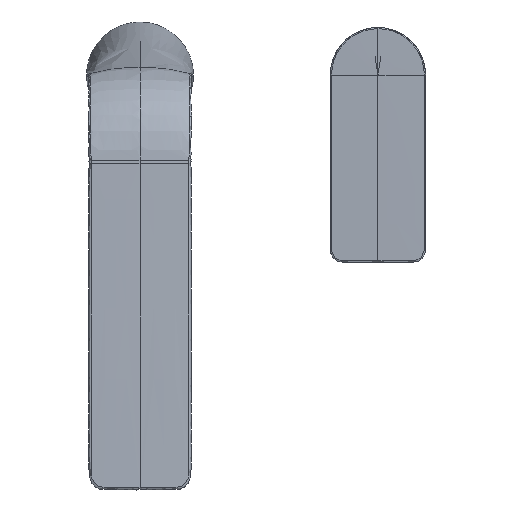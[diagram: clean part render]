
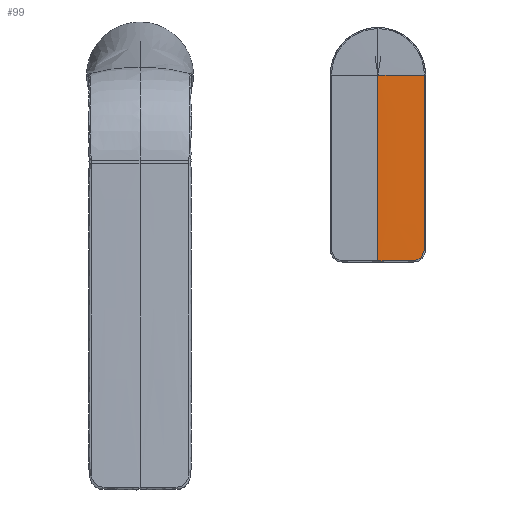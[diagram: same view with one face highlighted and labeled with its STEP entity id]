
A CAD part, top view. The second image highlights one B-rep face of the part: STEP entity #99.
In plain terms, the highlighted free-form (B-spline) face has degree [5, 5] with [6, 6] control points.
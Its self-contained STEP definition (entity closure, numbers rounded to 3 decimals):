
#99=ADVANCED_FACE('',(#697),#9128,.T.);
#697=FACE_OUTER_BOUND('',#1296,.T.);
#1296=EDGE_LOOP('',(#2118,#2119,#2120,#2121,#2122));
#2118=ORIENTED_EDGE('',*,*,#4847,.T.);
#2119=ORIENTED_EDGE('',*,*,#5301,.F.);
#2120=ORIENTED_EDGE('',*,*,#5300,.F.);
#2121=ORIENTED_EDGE('',*,*,#4877,.F.);
#2122=ORIENTED_EDGE('',*,*,#4846,.T.);
#4846=EDGE_CURVE('',#7758,#7739,#7005,.T.);
#4847=EDGE_CURVE('',#7739,#7759,#6269,.T.);
#4877=EDGE_CURVE('',#7758,#7781,#7021,.T.);
#5300=EDGE_CURVE('',#7781,#7782,#6486,.T.);
#5301=EDGE_CURVE('',#7782,#7759,#6487,.T.);
#6269=(
BOUNDED_CURVE()
B_SPLINE_CURVE(3,(#13135,#13136,#13137,#13138),.UNSPECIFIED.,.F.,.F.)
B_SPLINE_CURVE_WITH_KNOTS((4,4),(1.473,75.123),
 .UNSPECIFIED.)
CURVE()
GEOMETRIC_REPRESENTATION_ITEM()
RATIONAL_B_SPLINE_CURVE((1.,1.,1.,1.))
REPRESENTATION_ITEM('')
);
#6486=(
BOUNDED_CURVE()
B_SPLINE_CURVE(5,(#15600,#15601,#15602,#15603,#15604,#15605,#15606,#15607,
#15608,#15609,#15610,#15611,#15612,#15613,#15614,#15615),.UNSPECIFIED.,
 .F.,.F.)
B_SPLINE_CURVE_WITH_KNOTS((6,5,5,6),(-20.,-14.999,-9.998,
-4.996),.UNSPECIFIED.)
CURVE()
GEOMETRIC_REPRESENTATION_ITEM()
RATIONAL_B_SPLINE_CURVE((1.,1.,1.,1.,1.,1.,1.,1.,1.,1.,1.,1.,1.,1.,1.,1.))
REPRESENTATION_ITEM('')
);
#6487=(
BOUNDED_CURVE()
B_SPLINE_CURVE(3,(#15616,#15617,#15618,#15619,#15620,#15621,#15622,#15623,
#15624,#15625,#15626,#15627,#15628,#15629,#15630,#15631,#15632,#15633,#15634,
#15635,#15636,#15637,#15638,#15639,#15640),.UNSPECIFIED.,.F.,.F.)
B_SPLINE_CURVE_WITH_KNOTS((4,3,3,3,3,3,3,3,4),(-1.162,0.,1.32,
2.65,3.911,5.172,6.435,7.694,
8.99),.UNSPECIFIED.)
CURVE()
GEOMETRIC_REPRESENTATION_ITEM()
RATIONAL_B_SPLINE_CURVE((1.,1.054,1.111,1.172,
1.172,1.172,1.172,1.172,1.172,
1.172,1.172,1.172,1.172,1.172,
1.172,1.172,1.172,1.172,1.172,
1.172,1.172,1.172,1.111,1.054,
1.))
REPRESENTATION_ITEM('')
);
#7005=B_SPLINE_CURVE_WITH_KNOTS('',5,(#13129,#13130,#13131,#13132,#13133,
#13134),.UNSPECIFIED.,.F.,.F.,(6,6),(-20.187,-0.5),
 .UNSPECIFIED.);
#7021=B_SPLINE_CURVE_WITH_KNOTS('',5,(#13292,#13293,#13294,#13295,#13296,
#13297),.UNSPECIFIED.,.F.,.F.,(6,6),(1.563,79.713),.UNSPECIFIED.);
#7739=VERTEX_POINT('',#12435);
#7758=VERTEX_POINT('',#12454);
#7759=VERTEX_POINT('',#12455);
#7781=VERTEX_POINT('',#12477);
#7782=VERTEX_POINT('',#12478);
#9128=B_SPLINE_SURFACE_WITH_KNOTS('',5,5,((#10256,#10257,#10258,#10259,
#10260,#10261),(#10262,#10263,#10264,#10265,#10266,#10267),(#10268,#10269,
#10270,#10271,#10272,#10273),(#10274,#10275,#10276,#10277,#10278,#10279),
(#10280,#10281,#10282,#10283,#10284,#10285),(#10286,#10287,#10288,#10289,
#10290,#10291)),.UNSPECIFIED.,.F.,.F.,.F.,(6,6),(6,6),(0.,81.276),(0.,20.39),
 .UNSPECIFIED.);
#10256=CARTESIAN_POINT('',(142.818,-181.487,45.46));
#10257=CARTESIAN_POINT('',(138.74,-181.487,45.501));
#10258=CARTESIAN_POINT('',(134.662,-181.487,45.531));
#10259=CARTESIAN_POINT('',(130.584,-181.487,45.551));
#10260=CARTESIAN_POINT('',(126.506,-181.487,45.561));
#10261=CARTESIAN_POINT('',(122.428,-181.487,45.56));
#10262=CARTESIAN_POINT('',(142.818,-197.742,45.46));
#10263=CARTESIAN_POINT('',(138.74,-197.742,45.501));
#10264=CARTESIAN_POINT('',(134.662,-197.742,45.531));
#10265=CARTESIAN_POINT('',(130.584,-197.742,45.551));
#10266=CARTESIAN_POINT('',(126.506,-197.742,45.561));
#10267=CARTESIAN_POINT('',(122.428,-197.742,45.56));
#10268=CARTESIAN_POINT('',(142.818,-213.997,45.46));
#10269=CARTESIAN_POINT('',(138.74,-213.997,45.501));
#10270=CARTESIAN_POINT('',(134.662,-213.997,45.531));
#10271=CARTESIAN_POINT('',(130.584,-213.997,45.551));
#10272=CARTESIAN_POINT('',(126.506,-213.997,45.561));
#10273=CARTESIAN_POINT('',(122.428,-213.997,45.56));
#10274=CARTESIAN_POINT('',(142.818,-230.253,45.46));
#10275=CARTESIAN_POINT('',(138.74,-230.253,45.501));
#10276=CARTESIAN_POINT('',(134.662,-230.253,45.531));
#10277=CARTESIAN_POINT('',(130.584,-230.253,45.551));
#10278=CARTESIAN_POINT('',(126.506,-230.253,45.561));
#10279=CARTESIAN_POINT('',(122.428,-230.253,45.56));
#10280=CARTESIAN_POINT('',(142.818,-246.508,45.46));
#10281=CARTESIAN_POINT('',(138.74,-246.508,45.501));
#10282=CARTESIAN_POINT('',(134.662,-246.508,45.531));
#10283=CARTESIAN_POINT('',(130.584,-246.508,45.551));
#10284=CARTESIAN_POINT('',(126.506,-246.508,45.561));
#10285=CARTESIAN_POINT('',(122.428,-246.508,45.56));
#10286=CARTESIAN_POINT('',(142.818,-262.763,45.46));
#10287=CARTESIAN_POINT('',(138.74,-262.763,45.501));
#10288=CARTESIAN_POINT('',(134.662,-262.763,45.531));
#10289=CARTESIAN_POINT('',(130.584,-262.763,45.551));
#10290=CARTESIAN_POINT('',(126.506,-262.763,45.561));
#10291=CARTESIAN_POINT('',(122.428,-262.763,45.56));
#12435=CARTESIAN_POINT('',(142.323,-183.05,45.465));
#12454=CARTESIAN_POINT('',(122.818,-183.05,45.56));
#12455=CARTESIAN_POINT('',(142.323,-256.7,45.465));
#12477=CARTESIAN_POINT('',(122.818,-261.2,45.56));
#12478=CARTESIAN_POINT('',(137.822,-261.2,45.504));
#13129=CARTESIAN_POINT('',(122.818,-183.05,45.56));
#13130=CARTESIAN_POINT('',(126.719,-183.05,45.56));
#13131=CARTESIAN_POINT('',(130.62,-183.05,45.55));
#13132=CARTESIAN_POINT('',(134.521,-183.05,45.531));
#13133=CARTESIAN_POINT('',(138.422,-183.05,45.503));
#13134=CARTESIAN_POINT('',(142.323,-183.05,45.465));
#13135=CARTESIAN_POINT('',(142.323,-183.05,45.465));
#13136=CARTESIAN_POINT('',(142.323,-207.6,45.465));
#13137=CARTESIAN_POINT('',(142.323,-232.15,45.465));
#13138=CARTESIAN_POINT('',(142.323,-256.7,45.465));
#13292=CARTESIAN_POINT('',(122.818,-183.05,45.56));
#13293=CARTESIAN_POINT('',(122.818,-198.68,45.56));
#13294=CARTESIAN_POINT('',(122.818,-214.31,45.56));
#13295=CARTESIAN_POINT('',(122.818,-229.94,45.56));
#13296=CARTESIAN_POINT('',(122.818,-245.57,45.56));
#13297=CARTESIAN_POINT('',(122.818,-261.2,45.56));
#15600=CARTESIAN_POINT('',(122.818,-261.2,45.56));
#15601=CARTESIAN_POINT('',(123.818,-261.2,45.56));
#15602=CARTESIAN_POINT('',(124.818,-261.2,45.559));
#15603=CARTESIAN_POINT('',(125.819,-261.2,45.558));
#15604=CARTESIAN_POINT('',(126.819,-261.2,45.556));
#15605=CARTESIAN_POINT('',(127.819,-261.2,45.554));
#15606=CARTESIAN_POINT('',(128.819,-261.2,45.551));
#15607=CARTESIAN_POINT('',(129.82,-261.2,45.548));
#15608=CARTESIAN_POINT('',(130.82,-261.2,45.544));
#15609=CARTESIAN_POINT('',(131.82,-261.2,45.54));
#15610=CARTESIAN_POINT('',(132.82,-261.2,45.535));
#15611=CARTESIAN_POINT('',(133.821,-261.2,45.53));
#15612=CARTESIAN_POINT('',(134.821,-261.2,45.524));
#15613=CARTESIAN_POINT('',(135.821,-261.2,45.518));
#15614=CARTESIAN_POINT('',(136.821,-261.2,45.511));
#15615=CARTESIAN_POINT('',(137.822,-261.2,45.504));
#15616=CARTESIAN_POINT('',(137.822,-261.2,45.504));
#15617=CARTESIAN_POINT('',(138.095,-261.2,45.502));
#15618=CARTESIAN_POINT('',(138.369,-261.175,45.499));
#15619=CARTESIAN_POINT('',(138.638,-261.125,45.497));
#15620=CARTESIAN_POINT('',(138.938,-261.07,45.495));
#15621=CARTESIAN_POINT('',(139.233,-260.984,45.493));
#15622=CARTESIAN_POINT('',(139.515,-260.869,45.49));
#15623=CARTESIAN_POINT('',(139.8,-260.754,45.488));
#15624=CARTESIAN_POINT('',(140.073,-260.609,45.486));
#15625=CARTESIAN_POINT('',(140.328,-260.438,45.483));
#15626=CARTESIAN_POINT('',(140.57,-260.276,45.481));
#15627=CARTESIAN_POINT('',(140.796,-260.09,45.479));
#15628=CARTESIAN_POINT('',(141.002,-259.884,45.477));
#15629=CARTESIAN_POINT('',(141.208,-259.678,45.475));
#15630=CARTESIAN_POINT('',(141.395,-259.452,45.474));
#15631=CARTESIAN_POINT('',(141.557,-259.211,45.472));
#15632=CARTESIAN_POINT('',(141.72,-258.968,45.471));
#15633=CARTESIAN_POINT('',(141.859,-258.71,45.469));
#15634=CARTESIAN_POINT('',(141.972,-258.441,45.468));
#15635=CARTESIAN_POINT('',(142.085,-258.173,45.467));
#15636=CARTESIAN_POINT('',(142.171,-257.895,45.466));
#15637=CARTESIAN_POINT('',(142.23,-257.61,45.466));
#15638=CARTESIAN_POINT('',(142.292,-257.311,45.465));
#15639=CARTESIAN_POINT('',(142.323,-257.005,45.465));
#15640=CARTESIAN_POINT('',(142.323,-256.7,45.465));
